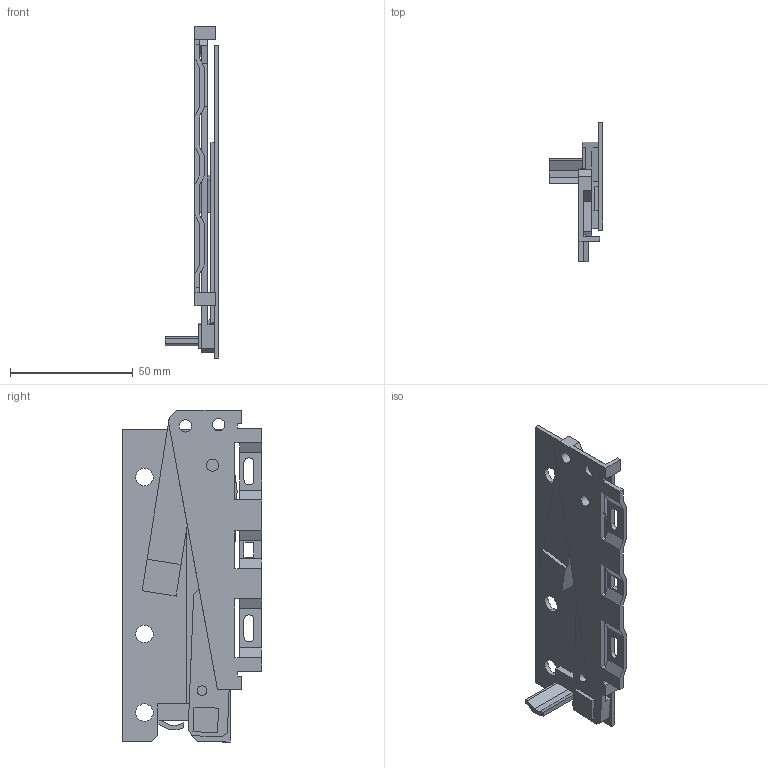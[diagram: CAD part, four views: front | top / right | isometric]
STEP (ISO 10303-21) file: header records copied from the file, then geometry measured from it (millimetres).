
FILE_DESCRIPTION (( 'STEP AP214' ), '1' );
FILE_NAME ('Kinvaro_T-57_rechts_D2575502125~a-STGA.STEP', '2016-05-12T14:09:02', ( 'Admin' ), ( 'Hewlett-Packard Company' ), 'SwSTEP 2.0', 'SolidWorks 2015', '' );
FILE_SCHEMA (( 'AUTOMOTIVE_DESIGN' ));
Length unit declared in the file: millimetre
Products named in the file (1): Kinvaro_T-57_rechts_D2575502125~a-STGA
Bounding box: 22 x 56.79 x 135.35 mm (x, y, z)
Volume: 25321.2 mm3; surface area: 25357.6 mm2
Topology: 1 solids, 1 shells, 145 faces, 437 edges, 288 vertices
Faces by surface type: plane 122, cylinder 21, bspline 2
Entity records: 4955 total; most frequent: CARTESIAN_POINT 918, ORIENTED_EDGE 874, DIRECTION 765, EDGE_CURVE 437, LINE 387, VECTOR 387, VERTEX_POINT 288, AXIS2_PLACEMENT_3D 189
